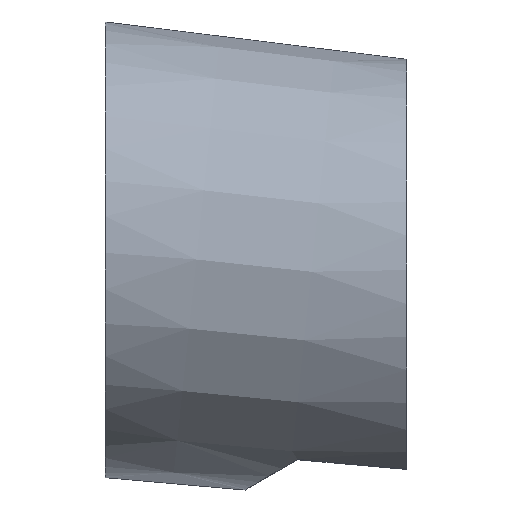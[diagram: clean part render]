
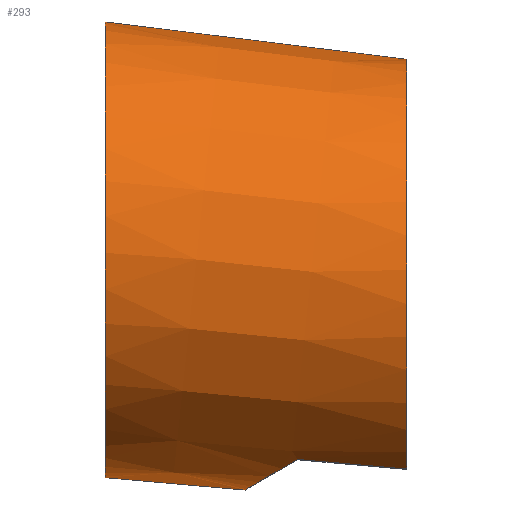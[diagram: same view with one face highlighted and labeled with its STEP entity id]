
A CAD part, top view. The second image highlights one B-rep face of the part: STEP entity #293.
In plain terms, the highlighted conical face has half-angle 1 degrees and reference radius 6.297 mm.
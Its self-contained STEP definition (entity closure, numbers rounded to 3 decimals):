
#6 = ORIENTED_EDGE ( 'NONE', *, *, #306, .T. ) ;
#11 = CARTESIAN_POINT ( 'NONE',  ( 17.039, -41.894, 17.03 ) ) ;
#17 = CARTESIAN_POINT ( 'NONE',  ( 20.158, -42.169, 17.014 ) ) ;
#18 = EDGE_CURVE ( 'NONE', #42, #377, #284, .T. ) ;
#35 = VERTEX_POINT ( 'NONE', #304 ) ;
#42 = VERTEX_POINT ( 'NONE', #51 ) ;
#45 = CARTESIAN_POINT ( 'NONE',  ( 15.529, -42.764, 13.6 ) ) ;
#51 = CARTESIAN_POINT ( 'NONE',  ( 15.529, -42.764, 13.6 ) ) ;
#52 = CARTESIAN_POINT ( 'NONE',  ( 19.119, -42.077, 17.019 ) ) ;
#55 = CARTESIAN_POINT ( 'NONE',  ( 17.039, -41.894, 17.03 ) ) ;
#56 = CARTESIAN_POINT ( 'NONE',  ( 11.529, -29.362, 13.6 ) ) ;
#60 = VECTOR ( 'NONE', #148, 1000. ) ;
#65 = EDGE_CURVE ( 'NONE', #42, #329, #297, .T. ) ;
#78 = EDGE_CURVE ( 'NONE', #372, #35, #216, .T. ) ;
#88 = CARTESIAN_POINT ( 'NONE',  ( 17.039, -41.894, 17.03 ) ) ;
#89 = CARTESIAN_POINT ( 'NONE',  ( 20.158, -37.948, 23.577 ) ) ;
#96 = ORIENTED_EDGE ( 'NONE', *, *, #125, .T. ) ;
#108 = LINE ( 'NONE', #120, #60 ) ;
#120 = CARTESIAN_POINT ( 'NONE',  ( 23.063, -30.788, 13.6 ) ) ;
#121 = CARTESIAN_POINT ( 'NONE',  ( 11.529, -42.41, 26.576 ) ) ;
#125 = EDGE_CURVE ( 'NONE', #241, #329, #316, .T. ) ;
#130 = ORIENTED_EDGE ( 'NONE', *, *, #78, .T. ) ;
#148 = DIRECTION ( 'NONE',  ( -0.992, 0.123, 0. ) ) ;
#149 = AXIS2_PLACEMENT_3D ( 'NONE', #168, #438, #407 ) ;
#161 = CARTESIAN_POINT ( 'NONE',  ( 20.158, -42.169, 17.014 ) ) ;
#168 = CARTESIAN_POINT ( 'NONE',  ( 22.399, -37.05, 13.6 ) ) ;
#192 = ORIENTED_EDGE ( 'NONE', *, *, #18, .T. ) ;
#195 = CARTESIAN_POINT ( 'NONE',  ( 21.736, -43.312, 13.6 ) ) ;
#196 = CARTESIAN_POINT ( 'NONE',  ( 20.158, -42.169, 17.014 ) ) ;
#216 =( BOUNDED_CURVE ( )  B_SPLINE_CURVE ( 3, ( #161, #89, #427, #388 ),
 .UNSPECIFIED., .F., .T. ) 
 B_SPLINE_CURVE_WITH_KNOTS ( ( 4, 4 ),
 ( 3.711, 6.283 ),
 .UNSPECIFIED. ) 
 CURVE ( )  GEOMETRIC_REPRESENTATION_ITEM ( )  RATIONAL_B_SPLINE_CURVE ( ( 1., 0.52, 0.52, 1. ) ) 
 REPRESENTATION_ITEM ( '' )  );
#225 = ORIENTED_EDGE ( 'NONE', *, *, #413, .T. ) ;
#239 = EDGE_LOOP ( 'NONE', ( #130, #6, #96, #396, #192, #225 ) ) ;
#241 = VERTEX_POINT ( 'NONE', #432 ) ;
#263 = CARTESIAN_POINT ( 'NONE',  ( 11.529, -42.41, 13.6 ) ) ;
#274 = DIRECTION ( 'NONE',  ( -0.996, 0.088, 0. ) ) ;
#284 =( BOUNDED_CURVE ( )  B_SPLINE_CURVE ( 3, ( #45, #307, #380, #11 ),
 .UNSPECIFIED., .F., .T. ) 
 B_SPLINE_CURVE_WITH_KNOTS ( ( 4, 4 ),
 ( 0., 0.581 ),
 .UNSPECIFIED. ) 
 CURVE ( )  GEOMETRIC_REPRESENTATION_ITEM ( )  RATIONAL_B_SPLINE_CURVE ( ( 1., 0.972, 0.972, 1. ) ) 
 REPRESENTATION_ITEM ( '' )  );
#293 = ADVANCED_FACE ( 'NONE', ( #436 ), #327, .T. ) ;
#297 = LINE ( 'NONE', #195, #443 ) ;
#304 = CARTESIAN_POINT ( 'NONE',  ( 20.158, -30.429, 13.6 ) ) ;
#306 = EDGE_CURVE ( 'NONE', #35, #241, #108, .T. ) ;
#307 = CARTESIAN_POINT ( 'NONE',  ( 15.529, -42.764, 14.827 ) ) ;
#316 =( BOUNDED_CURVE ( )  B_SPLINE_CURVE ( 3, ( #56, #339, #121, #263 ),
 .UNSPECIFIED., .F., .T. ) 
 B_SPLINE_CURVE_WITH_KNOTS ( ( 4, 4 ),
 ( 0., 3.142 ),
 .UNSPECIFIED. ) 
 CURVE ( )  GEOMETRIC_REPRESENTATION_ITEM ( )  RATIONAL_B_SPLINE_CURVE ( ( 1., 0.333, 0.333, 1. ) ) 
 REPRESENTATION_ITEM ( '' )  );
#327 = CONICAL_SURFACE ( 'NONE', #149, 6.297, 0.017 ) ;
#328 = CARTESIAN_POINT ( 'NONE',  ( 11.529, -42.41, 13.6 ) ) ;
#329 = VERTEX_POINT ( 'NONE', #328 ) ;
#339 = CARTESIAN_POINT ( 'NONE',  ( 11.529, -29.362, 26.576 ) ) ;
#372 = VERTEX_POINT ( 'NONE', #17 ) ;
#377 = VERTEX_POINT ( 'NONE', #88 ) ;
#380 = CARTESIAN_POINT ( 'NONE',  ( 16.047, -42.465, 16.004 ) ) ;
#384 = CARTESIAN_POINT ( 'NONE',  ( 18.079, -41.985, 17.025 ) ) ;
#388 = CARTESIAN_POINT ( 'NONE',  ( 20.158, -30.429, 13.6 ) ) ;
#396 = ORIENTED_EDGE ( 'NONE', *, *, #65, .F. ) ;
#407 = DIRECTION ( 'NONE',  ( -0.105, -0.994, 0. ) ) ;
#413 = EDGE_CURVE ( 'NONE', #377, #372, #456, .T. ) ;
#427 = CARTESIAN_POINT ( 'NONE',  ( 20.158, -30.429, 21.391 ) ) ;
#432 = CARTESIAN_POINT ( 'NONE',  ( 11.529, -29.362, 13.6 ) ) ;
#436 = FACE_OUTER_BOUND ( 'NONE', #239, .T. ) ;
#438 = DIRECTION ( 'NONE',  ( -0.994, 0.105, 0. ) ) ;
#443 = VECTOR ( 'NONE', #274, 1000. ) ;
#456 = B_SPLINE_CURVE_WITH_KNOTS ( 'NONE', 3,
 ( #55, #384, #52, #196 ),
 .UNSPECIFIED., .F., .F.,
 ( 4, 4 ),
 ( 0., 0.003 ),
 .UNSPECIFIED. ) ;
